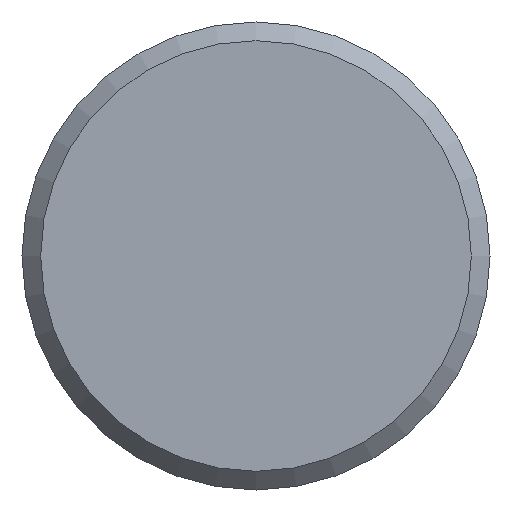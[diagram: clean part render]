
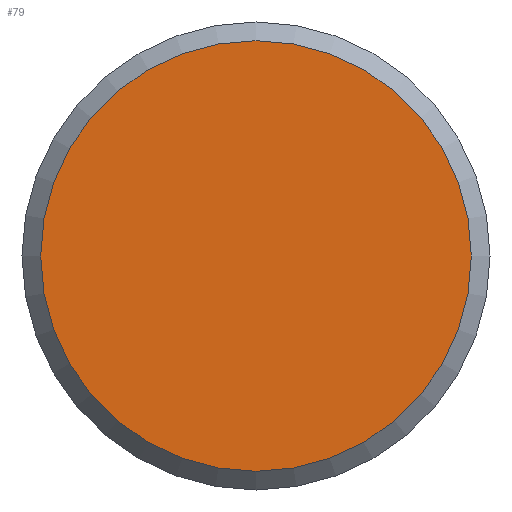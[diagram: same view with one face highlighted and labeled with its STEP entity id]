
A CAD part, front view. The second image highlights one B-rep face of the part: STEP entity #79.
In plain terms, the highlighted planar face has unit normal (0, -1, 0).
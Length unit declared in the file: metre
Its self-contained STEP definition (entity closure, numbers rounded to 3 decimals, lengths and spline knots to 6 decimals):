
#79 = ADVANCED_FACE( '', ( #92 ), #93, .T. );
#92 = FACE_OUTER_BOUND( '', #114, .T. );
#93 = PLANE( '', #115 );
#114 = EDGE_LOOP( '', ( #140 ) );
#115 = AXIS2_PLACEMENT_3D( '', #141, #142, #143 );
#140 = ORIENTED_EDGE( '', *, *, #171, .T. );
#141 = CARTESIAN_POINT( '', ( 0., 0., 0. ) );
#142 = DIRECTION( '', ( 0., -1., 0. ) );
#143 = DIRECTION( '', ( 0., 0., -1. ) );
#171 = EDGE_CURVE( '', #180, #180, #181, .T. );
#180 = VERTEX_POINT( '', #194 );
#181 = CIRCLE( '', #195, 0.023 );
#194 = CARTESIAN_POINT( '', ( 0., 0., -0.023 ) );
#195 = AXIS2_PLACEMENT_3D( '', #210, #211, #212 );
#210 = CARTESIAN_POINT( '', ( 0., 0., 0. ) );
#211 = DIRECTION( '', ( 0., -1., 0. ) );
#212 = DIRECTION( '', ( 0., 0., -1. ) );
